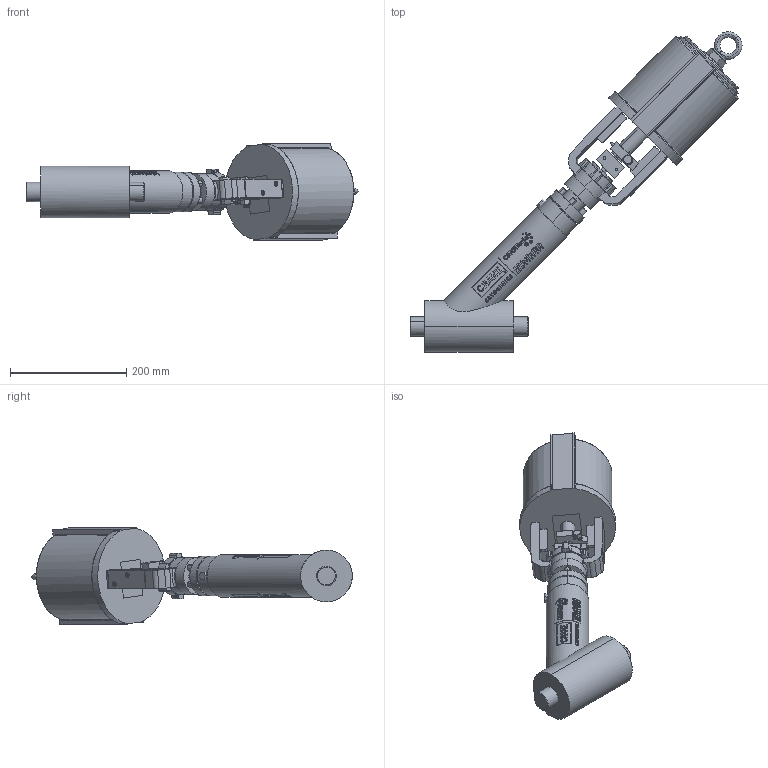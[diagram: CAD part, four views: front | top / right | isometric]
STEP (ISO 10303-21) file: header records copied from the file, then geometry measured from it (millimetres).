
FILE_DESCRIPTION (( 'STEP AP203' ), '1' );
FILE_NAME ('1IN Y-PATTERN PNEUMATIC CRANE BELLOWS SEAL VALVE.step', '2025-12-17T20:06:41', ( '' ), ( '' ), 'SwSTEP 2.0', 'SolidWorks 2023', '' );
FILE_SCHEMA (( 'CONFIG_CONTROL_DESIGN' ));
Products named in the file (1): 1IN Y-PATTERN PNEUMATIC CRANE BELLOWS SEAL VALVE
Bounding box: 571.4 x 551.64 x 166.89 mm (x, y, z)
Surface area: 341728 mm2 (no closed solid volume)
Topology: 0 solids, 3 shells, 2069 faces, 5689 edges, 3737 vertices
Faces by surface type: plane 977, cylinder 666, bspline 306, torus 70, cone 44, sphere 6
Full cylindrical faces by diameter (mm): 0.896 x2, 0.982 x2, 1.067 x2, 1.223 x2, 1.381 x2, 1.78 x2, 1.842 x2, 2.045 x2, 2.179 x2, 2.284 x2, 2.405 x2, 2.744 x2, 3.706 x2, 4.578 x2, 5.539 x2, 6.45 x2, 73.025 x1
Entity records: 295771 total; most frequent: CARTESIAN_POINT 252553, ORIENTED_EDGE 11256, DIRECTION 5724, EDGE_CURVE 5630, VERTEX_POINT 3737, B_SPLINE_CURVE_WITH_KNOTS 2652, EDGE_LOOP 2352, FACE_OUTER_BOUND 2118
